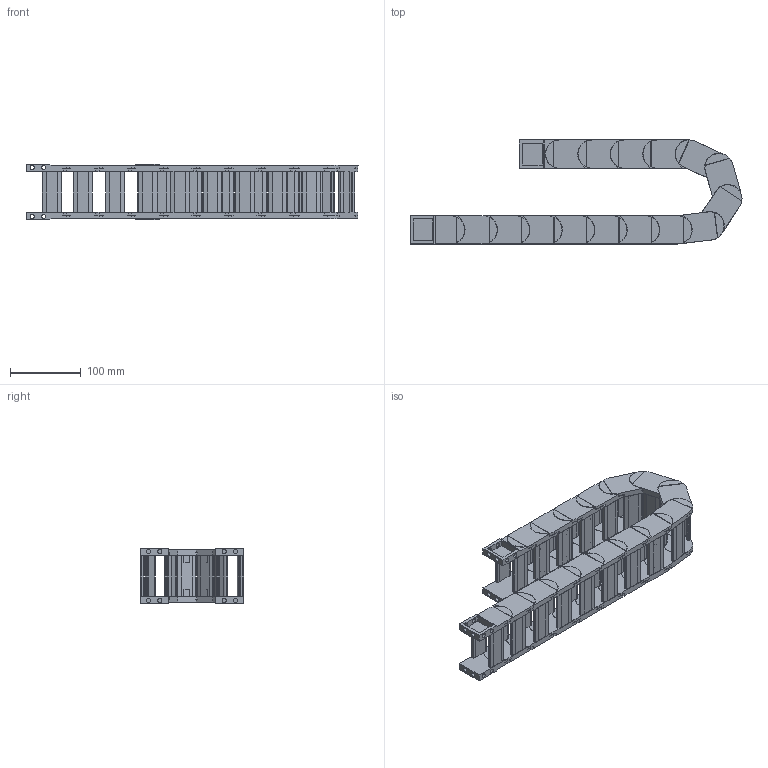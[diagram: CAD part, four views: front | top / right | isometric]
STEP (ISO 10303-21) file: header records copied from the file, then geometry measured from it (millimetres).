
FILE_DESCRIPTION((''),'2;1');
FILE_NAME('HD25-R55-ZPT_ASM','2022-06-05T16:48:32',('admin'),(''),'CREO PARAMETRIC BY PTC INC, 2021164','CREO PARAMETRIC BY PTC INC, 2021164','');
FILE_SCHEMA(('CONFIG_CONTROL_DESIGN','GEOMETRIC_VALIDATION_PROPERTIES_MIM'));
Length unit declared in the file: millimetre
Products named in the file (6): HD-25_8; 25XL-QSYP-57; HD25_ASM; H25-T1; H25-T2; HD25-R55-ZPT_ASM
Assembly tree (21 placements, depth 3):
  HD25-R55-ZPT_ASM
    HD25_ASM  x15
      HD-25_8
      25XL-QSYP-57
    H25-T1
    H25-T2
    25XL-QSYP-57  x2
Bounding box: 470.63 x 147.37 x 78.9 mm (x, y, z)
Volume: 790524.1 mm3; surface area: 417739.8 mm2
Topology: 68 solids, 68 shells, 1486 faces, 3850 edges, 2572 vertices
Faces by surface type: plane 1106, cylinder 380
Entity records: 9858 total; most frequent: CARTESIAN_POINT 1445, DIRECTION 1388, ORIENTED_EDGE 1336, EDGE_CURVE 668, VECTOR 498, LINE 498, VERTEX_POINT 446, AXIS2_PLACEMENT_3D 445
